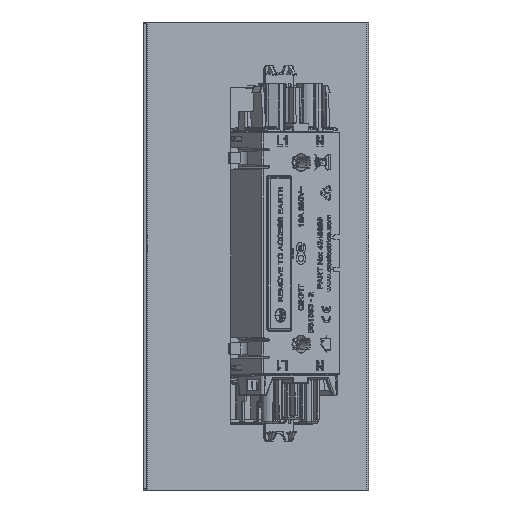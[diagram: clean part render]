
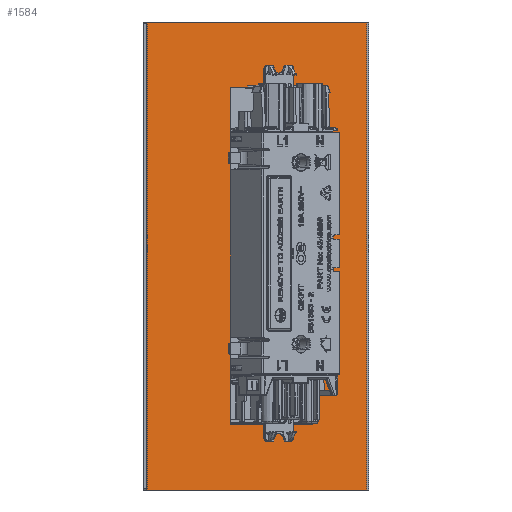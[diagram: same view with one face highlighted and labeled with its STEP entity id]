
A CAD part, left-side view. The second image highlights one B-rep face of the part: STEP entity #1584.
In plain terms, the highlighted planar face has unit normal (-0.766, -0.643, 0).
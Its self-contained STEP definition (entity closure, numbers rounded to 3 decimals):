
#558=CARTESIAN_POINT('',(-88.51,-1.557,90.5));
#559=VERTEX_POINT('',#558);
#607=CARTESIAN_POINT('',(-17.219,-86.518,90.5));
#608=VERTEX_POINT('',#607);
#609=CARTESIAN_POINT('',(-88.51,-1.557,90.5));
#610=DIRECTION('',(0.643,-0.766,0.0));
#611=VECTOR('',#610,110.909);
#612=LINE('',#609,#611);
#613=EDGE_CURVE('',#559,#608,#612,.T.);
#648=CARTESIAN_POINT('',(-88.51,-1.557,-90.5));
#649=VERTEX_POINT('',#648);
#768=CARTESIAN_POINT('',(-17.219,-86.518,-90.5));
#769=VERTEX_POINT('',#768);
#815=CARTESIAN_POINT('',(-88.51,-1.557,-90.5));
#816=DIRECTION('',(0.643,-0.766,0.0));
#817=VECTOR('',#816,110.909);
#818=LINE('',#815,#817);
#819=EDGE_CURVE('',#649,#769,#818,.T.);
#1487=CARTESIAN_POINT('',(-88.51,-1.557,90.5));
#1488=DIRECTION('',(0.0,0.0,-1.0));
#1489=VECTOR('',#1488,181.0);
#1490=LINE('',#1487,#1489);
#1491=EDGE_CURVE('',#559,#649,#1490,.T.);
#1498=CARTESIAN_POINT('',(-89.169,-0.771,90.5));
#1499=DIRECTION('',(0.766,0.643,0.0));
#1500=DIRECTION('',(0.0,0.0,-1.0));
#1501=AXIS2_PLACEMENT_3D('',#1498,#1499,#1500);
#1502=PLANE('',#1501);
#1503=ORIENTED_EDGE('',*,*,#819,.T.);
#1504=CARTESIAN_POINT('',(-17.219,-86.518,90.5));
#1505=DIRECTION('',(0.0,0.0,-1.0));
#1506=VECTOR('',#1505,181.0);
#1507=LINE('',#1504,#1506);
#1508=EDGE_CURVE('',#608,#769,#1507,.T.);
#1509=ORIENTED_EDGE('',*,*,#1508,.F.);
#1510=ORIENTED_EDGE('',*,*,#613,.F.);
#1511=ORIENTED_EDGE('',*,*,#1491,.T.);
#1512=EDGE_LOOP('',(#1503,#1509,#1510,#1511));
#1513=FACE_OUTER_BOUND('',#1512,.T.);
#1514=CARTESIAN_POINT('',(-34.937,-65.403,-65.25));
#1515=VERTEX_POINT('',#1514);
#1516=CARTESIAN_POINT('',(-61.292,-33.995,-65.25));
#1517=VERTEX_POINT('',#1516);
#1518=CARTESIAN_POINT('',(-34.937,-65.403,-65.25));
#1519=DIRECTION('',(-0.643,0.766,0.0));
#1520=VECTOR('',#1519,41.);
#1521=LINE('',#1518,#1520);
#1522=EDGE_CURVE('',#1515,#1517,#1521,.T.);
#1523=ORIENTED_EDGE('',*,*,#1522,.T.);
#1524=CARTESIAN_POINT('',(-61.452,-33.803,-65.0));
#1525=VERTEX_POINT('',#1524);
#1526=CARTESIAN_POINT('',(-61.292,-33.995,-65.0));
#1527=DIRECTION('',(0.766,0.643,0.0));
#1528=DIRECTION('',(-0.643,0.766,0.0));
#1529=AXIS2_PLACEMENT_3D('',#1526,#1527,#1528);
#1530=CIRCLE('',#1529,0.25);
#1531=EDGE_CURVE('',#1517,#1525,#1530,.T.);
#1532=ORIENTED_EDGE('',*,*,#1531,.T.);
#1533=CARTESIAN_POINT('',(-61.452,-33.803,65.0));
#1534=VERTEX_POINT('',#1533);
#1535=CARTESIAN_POINT('',(-61.452,-33.803,-65.0));
#1536=DIRECTION('',(0.0,0.0,1.0));
#1537=VECTOR('',#1536,130.0);
#1538=LINE('',#1535,#1537);
#1539=EDGE_CURVE('',#1525,#1534,#1538,.T.);
#1540=ORIENTED_EDGE('',*,*,#1539,.T.);
#1541=CARTESIAN_POINT('',(-61.292,-33.995,65.25));
#1542=VERTEX_POINT('',#1541);
#1543=CARTESIAN_POINT('',(-61.292,-33.995,65.0));
#1544=DIRECTION('',(0.766,0.643,0.0));
#1545=DIRECTION('',(-0.643,0.766,0.0));
#1546=AXIS2_PLACEMENT_3D('',#1543,#1544,#1545);
#1547=CIRCLE('',#1546,0.25);
#1548=EDGE_CURVE('',#1534,#1542,#1547,.T.);
#1549=ORIENTED_EDGE('',*,*,#1548,.T.);
#1550=CARTESIAN_POINT('',(-34.937,-65.403,65.25));
#1551=VERTEX_POINT('',#1550);
#1552=CARTESIAN_POINT('',(-61.292,-33.995,65.25));
#1553=DIRECTION('',(0.643,-0.766,0.0));
#1554=VECTOR('',#1553,41.);
#1555=LINE('',#1552,#1554);
#1556=EDGE_CURVE('',#1542,#1551,#1555,.T.);
#1557=ORIENTED_EDGE('',*,*,#1556,.T.);
#1558=CARTESIAN_POINT('',(-34.777,-65.594,65.0));
#1559=VERTEX_POINT('',#1558);
#1560=CARTESIAN_POINT('',(-34.937,-65.403,65.0));
#1561=DIRECTION('',(0.766,0.643,0.0));
#1562=DIRECTION('',(-0.643,0.766,0.0));
#1563=AXIS2_PLACEMENT_3D('',#1560,#1561,#1562);
#1564=CIRCLE('',#1563,0.25);
#1565=EDGE_CURVE('',#1551,#1559,#1564,.T.);
#1566=ORIENTED_EDGE('',*,*,#1565,.T.);
#1567=CARTESIAN_POINT('',(-34.777,-65.594,-65.0));
#1568=VERTEX_POINT('',#1567);
#1569=CARTESIAN_POINT('',(-34.777,-65.594,65.0));
#1570=DIRECTION('',(0.0,0.0,-1.0));
#1571=VECTOR('',#1570,130.0);
#1572=LINE('',#1569,#1571);
#1573=EDGE_CURVE('',#1559,#1568,#1572,.T.);
#1574=ORIENTED_EDGE('',*,*,#1573,.T.);
#1575=CARTESIAN_POINT('',(-34.937,-65.403,-65.0));
#1576=DIRECTION('',(0.766,0.643,0.0));
#1577=DIRECTION('',(-0.643,0.766,0.0));
#1578=AXIS2_PLACEMENT_3D('',#1575,#1576,#1577);
#1579=CIRCLE('',#1578,0.25);
#1580=EDGE_CURVE('',#1568,#1515,#1579,.T.);
#1581=ORIENTED_EDGE('',*,*,#1580,.T.);
#1582=EDGE_LOOP('',(#1523,#1532,#1540,#1549,#1557,#1566,#1574,#1581));
#1583=FACE_BOUND('',#1582,.T.);
#1584=ADVANCED_FACE('',(#1513,#1583),#1502,.F.);
